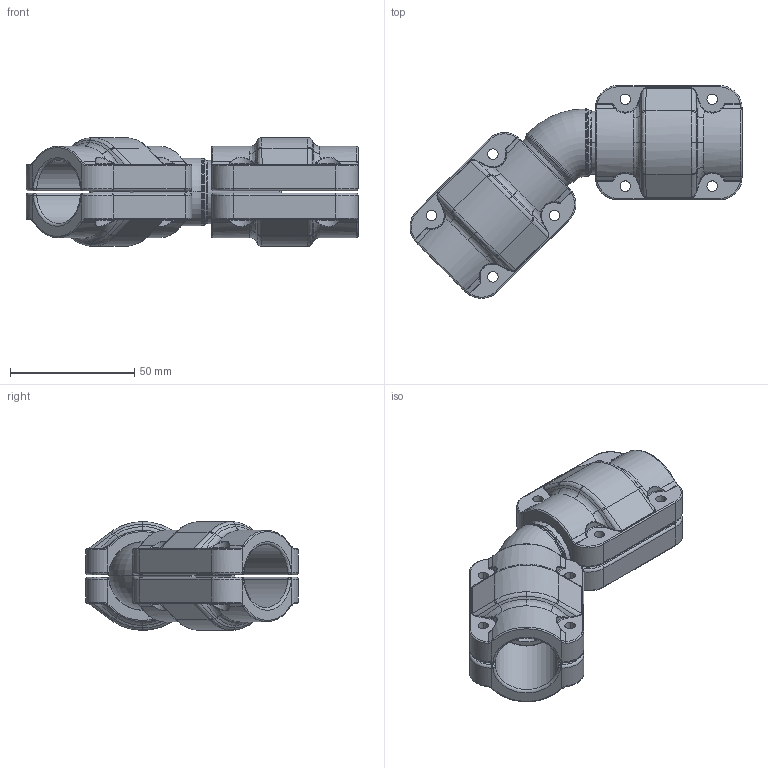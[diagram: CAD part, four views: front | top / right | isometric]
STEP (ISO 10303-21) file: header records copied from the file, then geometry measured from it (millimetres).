
FILE_DESCRIPTION((''),'2;1');
FILE_NAME('2015200499_ASM_6_ASM','2017-05-15T',('Administrator'),(''),'PRO/ENGINEER BY PARAMETRIC TECHNOLOGY CORPORATION, 2009360','PRO/ENGINEER BY PARAMETRIC TECHNOLOGY CORPORATION, 2009360','');
FILE_SCHEMA(('AUTOMOTIVE_DESIGN_CC2 { 1 2 10303 214 -1 1 5 2 }'));
Length unit declared in the file: millimetre
Products named in the file (5): 2015200400_6; 201520020000_23_1; 201520020001_10_1; 2015200200_ASM_1_ASM; 2015200499_ASM_6_ASM
Assembly tree (5 placements, depth 3):
  2015200499_ASM_6_ASM
    2015200400_6
    2015200200_ASM_1_ASM  x2
      201520020000_23_1
      201520020001_10_1
Bounding box: 133.74 x 85.71 x 43.8 mm (x, y, z)
Volume: 115710.4 mm3; surface area: 46903.2 mm2
Topology: 5 solids, 5 shells, 671 faces, 1603 edges, 926 vertices
Faces by surface type: bspline 289, cylinder 202, torus 98, plane 58, sphere 16, cone 8
Entity records: 18477 total; most frequent: CARTESIAN_POINT 8617, ORIENTED_EDGE 1694, DIRECTION 1260, PRESENTATION_STYLE_ASSIGNMENT 850, STYLED_ITEM 850, CURVE_STYLE 847, EDGE_CURVE 847, AXIS2_PLACEMENT_3D 546
